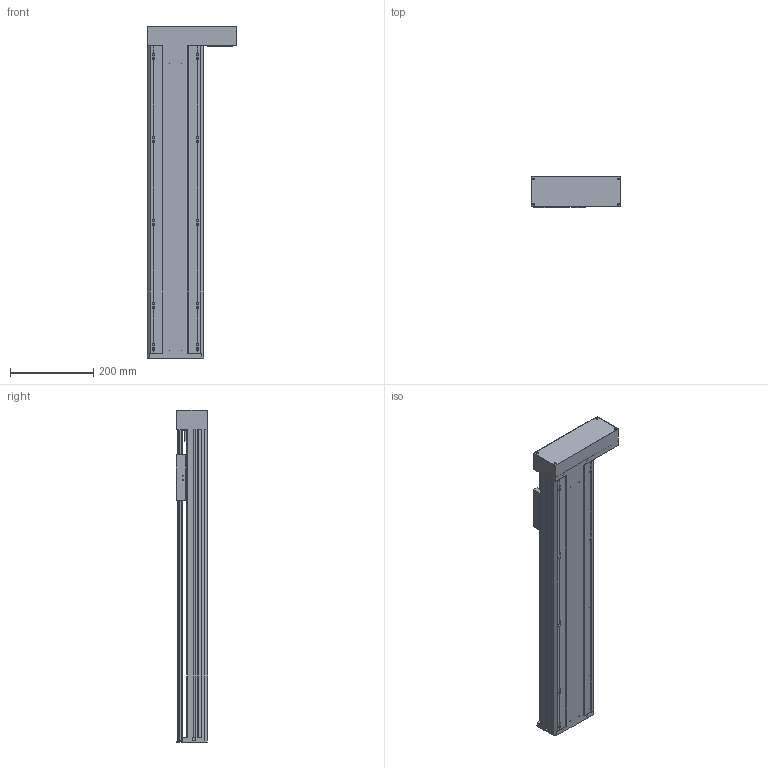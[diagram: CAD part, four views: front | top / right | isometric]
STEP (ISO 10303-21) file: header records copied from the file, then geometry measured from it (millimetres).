
FILE_DESCRIPTION(/* description */ (''),/* implementation_level */ '2;1');
FILE_NAME(/* name */ 'TKA136-FR-550_asm1.stp',/* time_stamp */ '2016-05-07T14:36:01+08:00',/* author */ (''),/* organization */ (''),/* preprocessor_version */ 'ST-DEVELOPER v15',/* originating_system */ 'SIEMENS PLM Software NX 8.5',/* authorisation */ '');
FILE_SCHEMA (('AUTOMOTIVE_DESIGN { 1 0 10303 214 3 1 1 1 }'));
Length unit declared in the file: millimetre
Products named in the file (3): 100-02; 100-01; TKA136-FR-550_asm1
Assembly tree (2 placements, depth 2):
  TKA136-FR-550_asm1
    100-01
    100-02
Bounding box: 216 x 75 x 800 mm (x, y, z)
Volume: 2584254.1 mm3; surface area: 1008084.8 mm2
Topology: 2 solids, 12 shells, 881 faces, 2484 edges, 1625 vertices
Faces by surface type: plane 415, cylinder 413, cone 53
Full cylindrical faces by diameter (mm): 2.5 x4, 3 x2, 3.3 x15, 4 x4, 4.2 x14, 4.5 x26, 5 x14, 5.5 x26, 6.6 x14, 8 x20, 10 x9, 10.5 x10, 11 x4, 11.6 x1, 12 x9, 15 x3, 16 x5, 17 x1, 24 x5, 26 x1, 28 x1, 46 x2, 50 x1
Entity records: 29337 total; most frequent: CARTESIAN_POINT 7748, DIRECTION 4487, ORIENTED_EDGE 4178, EDGE_CURVE 2089, AXIS2_PLACEMENT_3D 1709, VERTEX_POINT 1499, EDGE_LOOP 1297, LINE 1069
